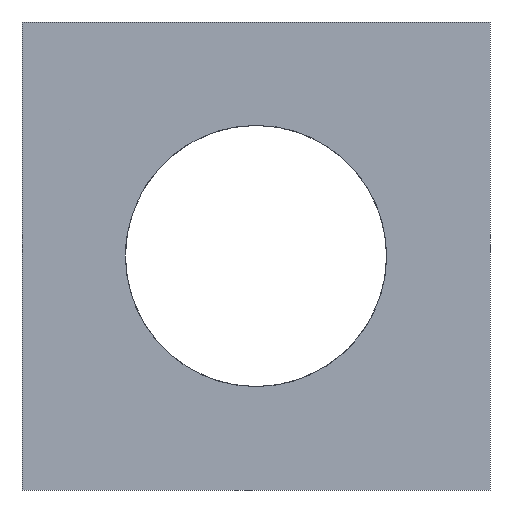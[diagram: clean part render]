
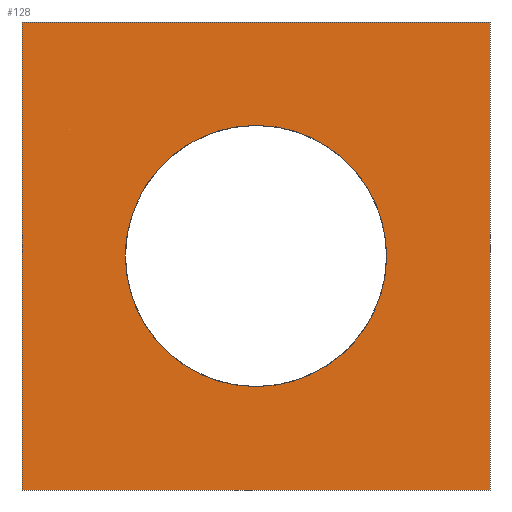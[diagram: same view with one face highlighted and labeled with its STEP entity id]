
A CAD part, front view. The second image highlights one B-rep face of the part: STEP entity #128.
In plain terms, the highlighted planar face has unit normal (0.087, -0.996, 0).
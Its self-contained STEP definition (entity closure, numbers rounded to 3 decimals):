
#18=FACE_BOUND('',#29,.T.);
#20=ELLIPSE('',#156,12.045,12.);
#21=FACE_OUTER_BOUND('',#28,.T.);
#28=EDGE_LOOP('',(#90,#91,#92,#93));
#29=EDGE_LOOP('',(#94));
#37=LINE('',#204,#50);
#38=LINE('',#206,#51);
#39=LINE('',#208,#52);
#40=LINE('',#209,#53);
#50=VECTOR('',#169,10.);
#51=VECTOR('',#170,10.);
#52=VECTOR('',#171,10.);
#53=VECTOR('',#172,10.);
#63=VERTEX_POINT('',#202);
#64=VERTEX_POINT('',#203);
#65=VERTEX_POINT('',#205);
#66=VERTEX_POINT('',#207);
#67=VERTEX_POINT('',#210);
#74=EDGE_CURVE('',#63,#64,#37,.T.);
#75=EDGE_CURVE('',#65,#63,#38,.T.);
#76=EDGE_CURVE('',#66,#65,#39,.T.);
#77=EDGE_CURVE('',#66,#64,#40,.T.);
#78=EDGE_CURVE('',#67,#67,#20,.T.);
#90=ORIENTED_EDGE('',*,*,#74,.F.);
#91=ORIENTED_EDGE('',*,*,#75,.F.);
#92=ORIENTED_EDGE('',*,*,#76,.F.);
#93=ORIENTED_EDGE('',*,*,#77,.T.);
#94=ORIENTED_EDGE('',*,*,#78,.F.);
#122=PLANE('',#155);
#128=ADVANCED_FACE('',(#21,#18),#122,.F.);
#155=AXIS2_PLACEMENT_3D('',#201,#167,#168);
#156=AXIS2_PLACEMENT_3D('',#211,#173,#174);
#167=DIRECTION('center_axis',(-0.087,0.996,0.));
#168=DIRECTION('ref_axis',(0.996,0.087,0.));
#169=DIRECTION('',(-0.996,-0.087,0.));
#170=DIRECTION('',(0.,0.,-1.));
#171=DIRECTION('',(0.996,0.087,0.));
#172=DIRECTION('',(0.,0.,-1.));
#173=DIRECTION('center_axis',(0.087,-0.996,0.));
#174=DIRECTION('ref_axis',(0.996,0.087,0.));
#201=CARTESIAN_POINT('Origin',(-21.5,-6.,21.5));
#202=CARTESIAN_POINT('',(21.5,-2.252,-21.5));
#203=CARTESIAN_POINT('',(-21.5,-6.,-21.5));
#204=CARTESIAN_POINT('',(-21.241,-5.977,-21.5));
#205=CARTESIAN_POINT('',(21.5,-2.252,21.5));
#206=CARTESIAN_POINT('',(21.5,-2.252,0.));
#207=CARTESIAN_POINT('',(-21.5,-6.,21.5));
#208=CARTESIAN_POINT('',(0.097,-4.118,21.5));
#209=CARTESIAN_POINT('',(-21.5,-6.,-21.5));
#210=CARTESIAN_POINT('',(-12.,-5.172,0.));
#211=CARTESIAN_POINT('Origin',(0.,-4.126,0.));
